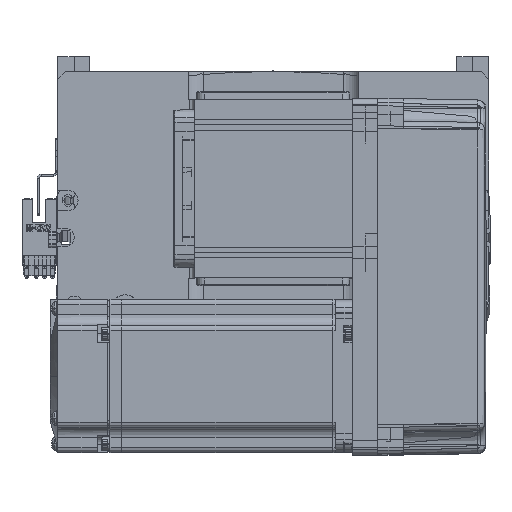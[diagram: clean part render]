
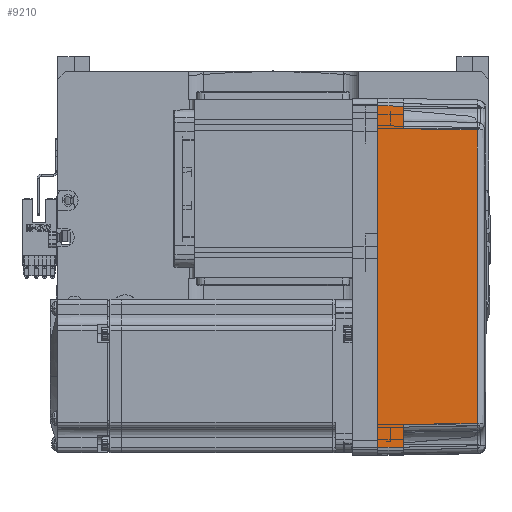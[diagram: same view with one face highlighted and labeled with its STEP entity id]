
A CAD part, top view. The second image highlights one B-rep face of the part: STEP entity #9210.
In plain terms, the highlighted planar face has unit normal (0.018, 0, 1) as drawn and (0, 1, 0.017) by its records, which use the part's own axes.
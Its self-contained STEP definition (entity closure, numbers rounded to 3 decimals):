
#1608 = VERTEX_POINT ( 'NONE', #24524 ) ;
#2268 = DIRECTION ( 'NONE',  ( 0.017, -0.017, 1. ) ) ;
#4223 = CARTESIAN_POINT ( 'NONE',  ( 67.001, 36.001, -0.052 ) ) ;
#4384 = B_SPLINE_CURVE_WITH_KNOTS ( 'NONE', 3,
 ( #29532, #67253, #34705, #40067 ),
 .UNSPECIFIED., .F., .F.,
 ( 4, 4 ),
 ( 0., 1. ),
 .UNSPECIFIED. ) ;
#4413 = PLANE ( 'NONE',  #53617 ) ;
#4645 = CARTESIAN_POINT ( 'NONE',  ( 70., 36., 0. ) ) ;
#6314 = EDGE_CURVE ( 'NONE', #1608, #39347, #52278, .T. ) ;
#9210 = ADVANCED_FACE ( 'NONE', ( #38375 ), #4413, .T. ) ;
#11931 = CARTESIAN_POINT ( 'NONE',  ( -67., 36., 0. ) ) ;
#12489 = ORIENTED_EDGE ( 'NONE', *, *, #59432, .T. ) ;
#12573 = VERTEX_POINT ( 'NONE', #68161 ) ;
#15307 = LINE ( 'NONE', #4223, #17820 ) ;
#16094 = ORIENTED_EDGE ( 'NONE', *, *, #56323, .F. ) ;
#16526 = EDGE_LOOP ( 'NONE', ( #54733, #34795, #45781, #39885, #12489, #50745, #41194, #16094 ) ) ;
#17820 = VECTOR ( 'NONE', #25713, 1000. ) ;
#19023 = LINE ( 'NONE', #50459, #37284 ) ;
#20757 = DIRECTION ( 'NONE',  ( 0., -0.017, 1. ) ) ;
#21307 = VERTEX_POINT ( 'NONE', #22789 ) ;
#22789 = CARTESIAN_POINT ( 'NONE',  ( 66.826, 35.825, 10. ) ) ;
#24524 = CARTESIAN_POINT ( 'NONE',  ( -58., 35.825, 10. ) ) ;
#25713 = DIRECTION ( 'NONE',  ( -0.017, -0.017, 1. ) ) ;
#26132 = EDGE_CURVE ( 'NONE', #65003, #1608, #19023, .T. ) ;
#26941 = VERTEX_POINT ( 'NONE', #60187 ) ;
#29532 = CARTESIAN_POINT ( 'NONE',  ( -57.495, 35.32, 38.985 ) ) ;
#31176 = VERTEX_POINT ( 'NONE', #11931 ) ;
#31566 = VECTOR ( 'NONE', #61710, 1000. ) ;
#33243 = VECTOR ( 'NONE', #60542, 1000. ) ;
#34705 = CARTESIAN_POINT ( 'NONE',  ( 19.165, 35.316, 39.181 ) ) ;
#34795 = ORIENTED_EDGE ( 'NONE', *, *, #26132, .T. ) ;
#35759 = LINE ( 'NONE', #54729, #33243 ) ;
#35986 = CARTESIAN_POINT ( 'NONE',  ( -66.826, 35.825, 10. ) ) ;
#37284 = VECTOR ( 'NONE', #56091, 1000. ) ;
#38027 = VECTOR ( 'NONE', #2268, 1000. ) ;
#38375 = FACE_OUTER_BOUND ( 'NONE', #16526, .T. ) ;
#39347 = VERTEX_POINT ( 'NONE', #57082 ) ;
#39720 = VECTOR ( 'NONE', #42801, 1000. ) ;
#39885 = ORIENTED_EDGE ( 'NONE', *, *, #43791, .T. ) ;
#40067 = CARTESIAN_POINT ( 'NONE',  ( 57.495, 35.32, 38.985 ) ) ;
#41194 = ORIENTED_EDGE ( 'NONE', *, *, #46265, .F. ) ;
#41372 = DIRECTION ( 'NONE',  ( 0., 1., 0.017 ) ) ;
#42801 = DIRECTION ( 'NONE',  ( 0.017, 0.017, -1. ) ) ;
#43353 = CARTESIAN_POINT ( 'NONE',  ( -67., 36., 0. ) ) ;
#43791 = EDGE_CURVE ( 'NONE', #39347, #56844, #4384, .T. ) ;
#45550 = CARTESIAN_POINT ( 'NONE',  ( 0., 36., 0. ) ) ;
#45781 = ORIENTED_EDGE ( 'NONE', *, *, #6314, .T. ) ;
#46265 = EDGE_CURVE ( 'NONE', #12573, #21307, #15307, .T. ) ;
#50459 = CARTESIAN_POINT ( 'NONE',  ( 70., 35.825, 10. ) ) ;
#50648 = LINE ( 'NONE', #58520, #39720 ) ;
#50745 = ORIENTED_EDGE ( 'NONE', *, *, #56229, .T. ) ;
#51670 = LINE ( 'NONE', #45550, #31566 ) ;
#52278 = LINE ( 'NONE', #56531, #38027 ) ;
#53617 = AXIS2_PLACEMENT_3D ( 'NONE', #4645, #41372, #20757 ) ;
#54729 = CARTESIAN_POINT ( 'NONE',  ( 70., 35.825, 10. ) ) ;
#54733 = ORIENTED_EDGE ( 'NONE', *, *, #62956, .T. ) ;
#56057 = VECTOR ( 'NONE', #65606, 1000. ) ;
#56091 = DIRECTION ( 'NONE',  ( 1., 0., 0. ) ) ;
#56229 = EDGE_CURVE ( 'NONE', #26941, #21307, #35759, .T. ) ;
#56323 = EDGE_CURVE ( 'NONE', #31176, #12573, #51670, .T. ) ;
#56531 = CARTESIAN_POINT ( 'NONE',  ( -58., 35.825, 10. ) ) ;
#56844 = VERTEX_POINT ( 'NONE', #65388 ) ;
#57082 = CARTESIAN_POINT ( 'NONE',  ( -57.495, 35.32, 38.985 ) ) ;
#58520 = CARTESIAN_POINT ( 'NONE',  ( 57.495, 35.32, 38.985 ) ) ;
#59432 = EDGE_CURVE ( 'NONE', #56844, #26941, #50648, .T. ) ;
#60187 = CARTESIAN_POINT ( 'NONE',  ( 58., 35.825, 10. ) ) ;
#60230 = LINE ( 'NONE', #43353, #56057 ) ;
#60542 = DIRECTION ( 'NONE',  ( 1., 0., 0. ) ) ;
#61710 = DIRECTION ( 'NONE',  ( 1., 0., 0. ) ) ;
#62956 = EDGE_CURVE ( 'NONE', #31176, #65003, #60230, .T. ) ;
#65003 = VERTEX_POINT ( 'NONE', #35986 ) ;
#65388 = CARTESIAN_POINT ( 'NONE',  ( 57.495, 35.32, 38.985 ) ) ;
#65606 = DIRECTION ( 'NONE',  ( 0.017, -0.017, 1. ) ) ;
#67253 = CARTESIAN_POINT ( 'NONE',  ( -19.165, 35.316, 39.181 ) ) ;
#68161 = CARTESIAN_POINT ( 'NONE',  ( 67., 36., 0. ) ) ;
